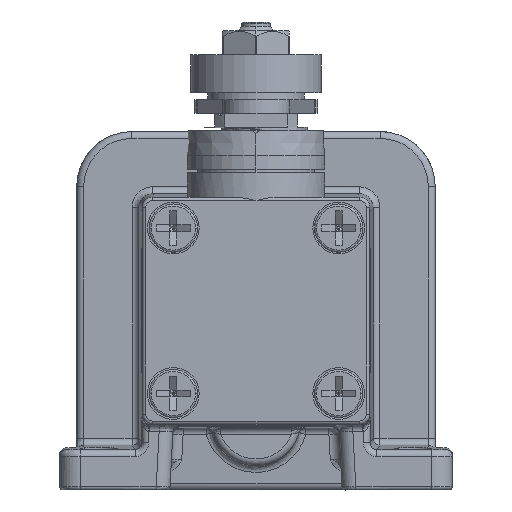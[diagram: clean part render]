
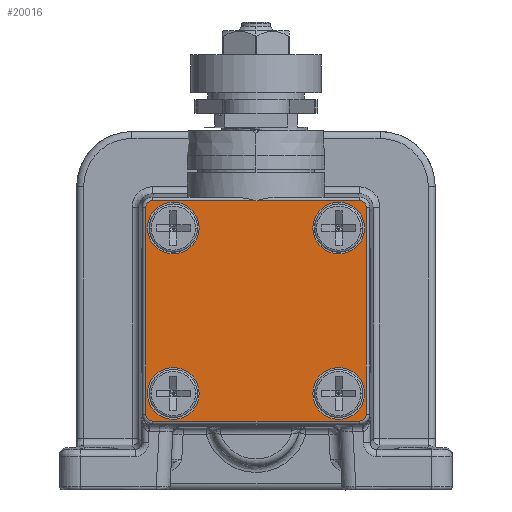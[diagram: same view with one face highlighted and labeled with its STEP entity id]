
A CAD part, left-side view. The second image highlights one B-rep face of the part: STEP entity #20016.
In plain terms, the highlighted planar face has unit normal (-1, 0, 0).
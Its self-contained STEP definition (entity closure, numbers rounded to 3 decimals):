
#19853=CARTESIAN_POINT('',(-76.253,0.,0.));
#19854=DIRECTION('',(1.0,0.0,0.0));
#19855=DIRECTION('',(0.0,1.0,0.0));
#19856=AXIS2_PLACEMENT_3D('',#19853,#19854,#19855);
#19857=PLANE('',#19856);
#19858=CARTESIAN_POINT('',(-76.253,15.,16.));
#19859=VERTEX_POINT('',#19858);
#19860=CARTESIAN_POINT('',(-76.253,16.,15.));
#19861=VERTEX_POINT('',#19860);
#19862=CARTESIAN_POINT('',(-76.253,15.,15.));
#19863=DIRECTION('',(-1.0,0.0,0.0));
#19864=DIRECTION('',(0.0,0.0,1.0));
#19865=AXIS2_PLACEMENT_3D('',#19862,#19863,#19864);
#19866=CIRCLE('',#19865,1.);
#19867=EDGE_CURVE('',#19859,#19861,#19866,.T.);
#19868=ORIENTED_EDGE('',*,*,#19867,.T.);
#19869=CARTESIAN_POINT('',(-76.253,16.,-15.));
#19870=VERTEX_POINT('',#19869);
#19871=CARTESIAN_POINT('',(-76.253,16.,15.));
#19872=DIRECTION('',(0.0,0.0,-1.0));
#19873=VECTOR('',#19872,30.0);
#19874=LINE('',#19871,#19873);
#19875=EDGE_CURVE('',#19861,#19870,#19874,.T.);
#19876=ORIENTED_EDGE('',*,*,#19875,.T.);
#19877=CARTESIAN_POINT('',(-76.253,15.,-16.));
#19878=VERTEX_POINT('',#19877);
#19879=CARTESIAN_POINT('',(-76.253,15.,-15.));
#19880=DIRECTION('',(-1.0,0.0,0.0));
#19881=DIRECTION('',(0.0,1.0,0.0));
#19882=AXIS2_PLACEMENT_3D('',#19879,#19880,#19881);
#19883=CIRCLE('',#19882,1.);
#19884=EDGE_CURVE('',#19870,#19878,#19883,.T.);
#19885=ORIENTED_EDGE('',*,*,#19884,.T.);
#19886=CARTESIAN_POINT('',(-76.253,-15.,-16.));
#19887=VERTEX_POINT('',#19886);
#19888=CARTESIAN_POINT('',(-76.253,15.,-16.));
#19889=DIRECTION('',(0.0,-1.0,0.0));
#19890=VECTOR('',#19889,30.0);
#19891=LINE('',#19888,#19890);
#19892=EDGE_CURVE('',#19878,#19887,#19891,.T.);
#19893=ORIENTED_EDGE('',*,*,#19892,.T.);
#19894=CARTESIAN_POINT('',(-76.253,-16.,-15.));
#19895=VERTEX_POINT('',#19894);
#19896=CARTESIAN_POINT('',(-76.253,-15.,-15.));
#19897=DIRECTION('',(-1.0,0.0,0.0));
#19898=DIRECTION('',(0.0,0.0,-1.0));
#19899=AXIS2_PLACEMENT_3D('',#19896,#19897,#19898);
#19900=CIRCLE('',#19899,1.);
#19901=EDGE_CURVE('',#19887,#19895,#19900,.T.);
#19902=ORIENTED_EDGE('',*,*,#19901,.T.);
#19903=CARTESIAN_POINT('',(-76.253,-16.,15.));
#19904=VERTEX_POINT('',#19903);
#19905=CARTESIAN_POINT('',(-76.253,-16.,-15.));
#19906=DIRECTION('',(0.0,0.0,1.0));
#19907=VECTOR('',#19906,30.0);
#19908=LINE('',#19905,#19907);
#19909=EDGE_CURVE('',#19895,#19904,#19908,.T.);
#19910=ORIENTED_EDGE('',*,*,#19909,.T.);
#19911=CARTESIAN_POINT('',(-76.253,-15.,16.));
#19912=VERTEX_POINT('',#19911);
#19913=CARTESIAN_POINT('',(-76.253,-15.,15.));
#19914=DIRECTION('',(-1.0,0.0,0.0));
#19915=DIRECTION('',(0.0,-1.0,0.0));
#19916=AXIS2_PLACEMENT_3D('',#19913,#19914,#19915);
#19917=CIRCLE('',#19916,1.);
#19918=EDGE_CURVE('',#19904,#19912,#19917,.T.);
#19919=ORIENTED_EDGE('',*,*,#19918,.T.);
#19920=CARTESIAN_POINT('',(-76.253,0.,16.));
#19921=VERTEX_POINT('',#19920);
#19922=CARTESIAN_POINT('',(-76.253,-15.,16.));
#19923=DIRECTION('',(0.0,1.0,0.0));
#19924=VECTOR('',#19923,15.0);
#19925=LINE('',#19922,#19924);
#19926=EDGE_CURVE('',#19912,#19921,#19925,.T.);
#19927=ORIENTED_EDGE('',*,*,#19926,.T.);
#19928=CARTESIAN_POINT('',(-76.253,0.,16.));
#19929=DIRECTION('',(0.0,1.0,0.0));
#19930=VECTOR('',#19929,15.0);
#19931=LINE('',#19928,#19930);
#19932=EDGE_CURVE('',#19921,#19859,#19931,.T.);
#19933=ORIENTED_EDGE('',*,*,#19932,.T.);
#19934=EDGE_LOOP('',(#19868,#19876,#19885,#19893,#19902,#19910,#19919,#19927,#19933));
#19935=FACE_OUTER_BOUND('',#19934,.T.);
#19936=CARTESIAN_POINT('',(-76.253,-12.,-8.25));
#19937=VERTEX_POINT('',#19936);
#19938=CARTESIAN_POINT('',(-76.253,-12.,-15.75));
#19939=VERTEX_POINT('',#19938);
#19940=CARTESIAN_POINT('',(-76.253,-12.,-12.));
#19941=DIRECTION('',(-1.0,0.0,0.0));
#19942=DIRECTION('',(0.0,0.0,1.0));
#19943=AXIS2_PLACEMENT_3D('',#19940,#19941,#19942);
#19944=CIRCLE('',#19943,3.75);
#19945=EDGE_CURVE('',#19937,#19939,#19944,.T.);
#19946=ORIENTED_EDGE('',*,*,#19945,.F.);
#19947=CARTESIAN_POINT('',(-76.253,-12.,-12.));
#19948=DIRECTION('',(-1.0,0.0,0.0));
#19949=DIRECTION('',(0.0,0.0,-1.0));
#19950=AXIS2_PLACEMENT_3D('',#19947,#19948,#19949);
#19951=CIRCLE('',#19950,3.75);
#19952=EDGE_CURVE('',#19939,#19937,#19951,.T.);
#19953=ORIENTED_EDGE('',*,*,#19952,.F.);
#19954=EDGE_LOOP('',(#19946,#19953));
#19955=FACE_BOUND('',#19954,.T.);
#19956=CARTESIAN_POINT('',(-76.253,15.75,12.));
#19957=VERTEX_POINT('',#19956);
#19958=CARTESIAN_POINT('',(-76.253,8.25,12.));
#19959=VERTEX_POINT('',#19958);
#19960=CARTESIAN_POINT('',(-76.253,12.,12.));
#19961=DIRECTION('',(1.0,0.0,0.0));
#19962=DIRECTION('',(0.0,1.0,0.0));
#19963=AXIS2_PLACEMENT_3D('',#19960,#19961,#19962);
#19964=CIRCLE('',#19963,3.75);
#19965=EDGE_CURVE('',#19957,#19959,#19964,.T.);
#19966=ORIENTED_EDGE('',*,*,#19965,.T.);
#19967=CARTESIAN_POINT('',(-76.253,12.,12.));
#19968=DIRECTION('',(1.0,0.0,0.0));
#19969=DIRECTION('',(0.0,-1.0,0.0));
#19970=AXIS2_PLACEMENT_3D('',#19967,#19968,#19969);
#19971=CIRCLE('',#19970,3.75);
#19972=EDGE_CURVE('',#19959,#19957,#19971,.T.);
#19973=ORIENTED_EDGE('',*,*,#19972,.T.);
#19974=EDGE_LOOP('',(#19966,#19973));
#19975=FACE_BOUND('',#19974,.T.);
#19976=CARTESIAN_POINT('',(-76.253,-8.25,12.));
#19977=VERTEX_POINT('',#19976);
#19978=CARTESIAN_POINT('',(-76.253,-15.75,12.));
#19979=VERTEX_POINT('',#19978);
#19980=CARTESIAN_POINT('',(-76.253,-12.,12.));
#19981=DIRECTION('',(1.0,0.0,0.0));
#19982=DIRECTION('',(0.0,1.0,0.0));
#19983=AXIS2_PLACEMENT_3D('',#19980,#19981,#19982);
#19984=CIRCLE('',#19983,3.75);
#19985=EDGE_CURVE('',#19977,#19979,#19984,.T.);
#19986=ORIENTED_EDGE('',*,*,#19985,.T.);
#19987=CARTESIAN_POINT('',(-76.253,-12.,12.));
#19988=DIRECTION('',(1.0,0.0,0.0));
#19989=DIRECTION('',(0.0,-1.0,0.0));
#19990=AXIS2_PLACEMENT_3D('',#19987,#19988,#19989);
#19991=CIRCLE('',#19990,3.75);
#19992=EDGE_CURVE('',#19979,#19977,#19991,.T.);
#19993=ORIENTED_EDGE('',*,*,#19992,.T.);
#19994=EDGE_LOOP('',(#19986,#19993));
#19995=FACE_BOUND('',#19994,.T.);
#19996=CARTESIAN_POINT('',(-76.253,12.,-15.75));
#19997=VERTEX_POINT('',#19996);
#19998=CARTESIAN_POINT('',(-76.253,12.,-8.25));
#19999=VERTEX_POINT('',#19998);
#20000=CARTESIAN_POINT('',(-76.253,12.,-12.));
#20001=DIRECTION('',(-1.0,0.0,0.0));
#20002=DIRECTION('',(0.0,0.0,-1.0));
#20003=AXIS2_PLACEMENT_3D('',#20000,#20001,#20002);
#20004=CIRCLE('',#20003,3.75);
#20005=EDGE_CURVE('',#19997,#19999,#20004,.T.);
#20006=ORIENTED_EDGE('',*,*,#20005,.F.);
#20007=CARTESIAN_POINT('',(-76.253,12.,-12.));
#20008=DIRECTION('',(-1.0,0.0,0.0));
#20009=DIRECTION('',(0.0,0.0,1.0));
#20010=AXIS2_PLACEMENT_3D('',#20007,#20008,#20009);
#20011=CIRCLE('',#20010,3.75);
#20012=EDGE_CURVE('',#19999,#19997,#20011,.T.);
#20013=ORIENTED_EDGE('',*,*,#20012,.F.);
#20014=EDGE_LOOP('',(#20006,#20013));
#20015=FACE_BOUND('',#20014,.T.);
#20016=ADVANCED_FACE('',(#19935,#19955,#19975,#19995,#20015),#19857,.F.);
